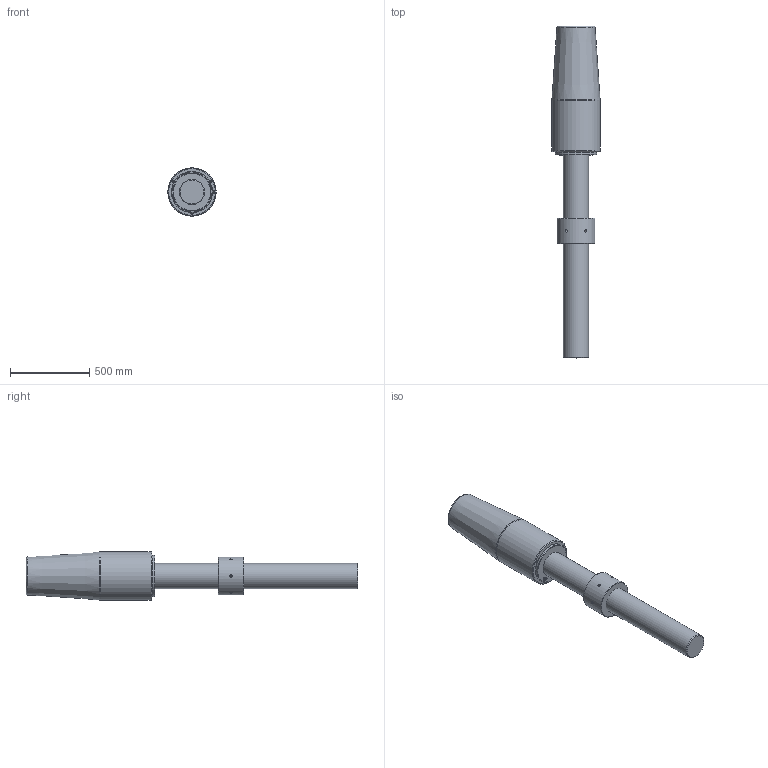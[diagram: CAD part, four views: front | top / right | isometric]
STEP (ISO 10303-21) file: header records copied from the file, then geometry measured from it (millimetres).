
FILE_DESCRIPTION(/* description */ (''),/* implementation_level */ '2;1');
FILE_NAME(/* name */ 'D:\Clienti\Redaelli (inventor)\CYB\STEP\Arrangement\CYB104 52 061 0.stp',/* time_stamp */ '2021-05-08T14:54:03+02:00',/* author */ ('fabri'),/* organization */ (''),/* preprocessor_version */ 'ST-DEVELOPER v16.13',/* originating_system */ 'Autodesk Inventor 2018',/* authorisation */ '');
FILE_SCHEMA (('AUTOMOTIVE_DESIGN { 1 0 10303 214 3 1 1 }'));
Length unit declared in the file: millimetre
Products named in the file (5): CYB104 52 061 0; RNT052 41 051 0_ROD; RNT052 41 051 0_ROD_1; CCY021-51-061-0_BUSH; CCY021-51-061-0
Assembly tree (4 placements, depth 2):
  CYB104 52 061 0
    RNT052 41 051 0_ROD
    RNT052 41 051 0_ROD_1
    CCY021-51-061-0_BUSH
    CCY021-51-061-0
Bounding box: 305 x 2098 x 305 mm (x, y, z)
Volume: 90822122.1 mm3; surface area: 2212323.6 mm2
Topology: 4 solids, 4 shells, 671 faces, 1788 edges, 1187 vertices
Faces by surface type: plane 345, bspline 288, cylinder 18, cone 16, torus 4
Full cylindrical faces by diameter (mm): 13.835 x3, 15 x6, 153.505 x2, 160 x1, 161 x1, 218 x1, 230 x1, 240 x1, 260 x1, 305 x1
Entity records: 22276 total; most frequent: CARTESIAN_POINT 7565, ORIENTED_EDGE 3478, DIRECTION 1979, EDGE_CURVE 1739, VERTEX_POINT 1177, LINE 1109, VECTOR 1109, EDGE_LOOP 776
